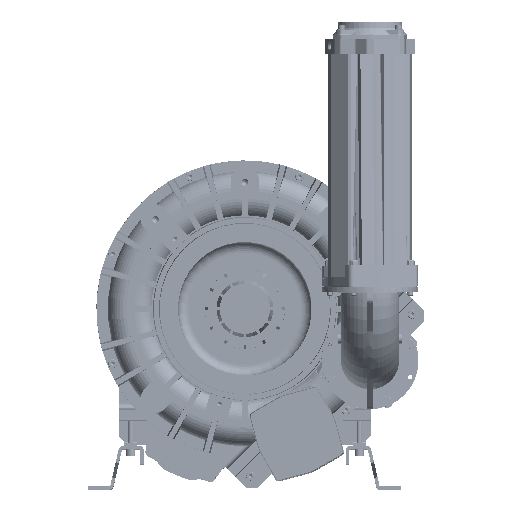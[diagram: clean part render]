
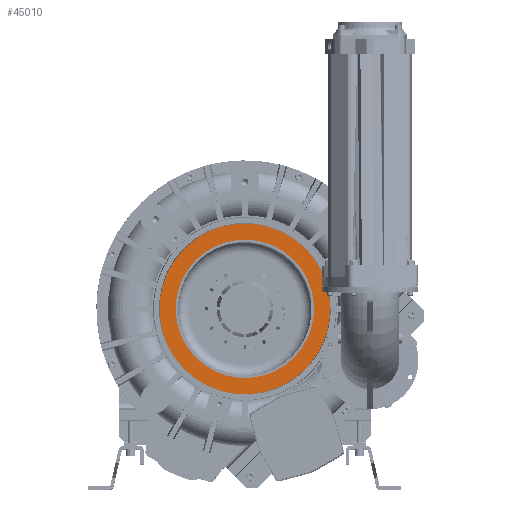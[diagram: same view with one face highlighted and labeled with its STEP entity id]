
A CAD part, top view. The second image highlights one B-rep face of the part: STEP entity #45010.
In plain terms, the highlighted planar face has unit normal (0, 0, 1).
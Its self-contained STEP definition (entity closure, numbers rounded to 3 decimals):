
#4747 = CIRCLE ( 'NONE', #230719, 103.5 ) ;
#20519 = EDGE_LOOP ( 'NONE', ( #203400 ) ) ;
#29563 = ORIENTED_EDGE ( 'NONE', *, *, #193597, .T. ) ;
#36047 = AXIS2_PLACEMENT_3D ( 'NONE', #191776, #130836, #215823 ) ;
#36756 = VERTEX_POINT ( 'NONE', #168457 ) ;
#43757 = EDGE_CURVE ( 'NONE', #36756, #36756, #4747, .T. ) ;
#45010 = ADVANCED_FACE ( 'NONE', ( #86968, #259675 ), #213028, .F. ) ;
#71968 = CARTESIAN_POINT ( 'NONE',  ( -90.293, -90.293, 352.5 ) ) ;
#78658 = CARTESIAN_POINT ( 'NONE',  ( 0., 0., 352.5 ) ) ;
#79062 = DIRECTION ( 'NONE',  ( 0., 0., 1. ) ) ;
#86968 = FACE_BOUND ( 'NONE', #20519, .T. ) ;
#100356 = CARTESIAN_POINT ( 'NONE',  ( 0., 0., 352.5 ) ) ;
#102714 = DIRECTION ( 'NONE',  ( 0.707, 0.707, 0. ) ) ;
#130836 = DIRECTION ( 'NONE',  ( 0., 0., -1. ) ) ;
#161304 = DIRECTION ( 'NONE',  ( -0.707, -0.707, 0. ) ) ;
#165376 = CIRCLE ( 'NONE', #260378, 127.694 ) ;
#168457 = CARTESIAN_POINT ( 'NONE',  ( 73.186, 73.186, 352.5 ) ) ;
#191776 = CARTESIAN_POINT ( 'NONE',  ( 0., 0., 352.5 ) ) ;
#193597 = EDGE_CURVE ( 'NONE', #268729, #268729, #165376, .T. ) ;
#203400 = ORIENTED_EDGE ( 'NONE', *, *, #43757, .F. ) ;
#207549 = DIRECTION ( 'NONE',  ( 0., 0., 1. ) ) ;
#209738 = EDGE_LOOP ( 'NONE', ( #29563 ) ) ;
#213028 = PLANE ( 'NONE',  #36047 ) ;
#215823 = DIRECTION ( 'NONE',  ( -0.707, -0.707, 0. ) ) ;
#230719 = AXIS2_PLACEMENT_3D ( 'NONE', #78658, #207549, #102714 ) ;
#259675 = FACE_OUTER_BOUND ( 'NONE', #209738, .T. ) ;
#260378 = AXIS2_PLACEMENT_3D ( 'NONE', #100356, #79062, #161304 ) ;
#268729 = VERTEX_POINT ( 'NONE', #71968 ) ;
